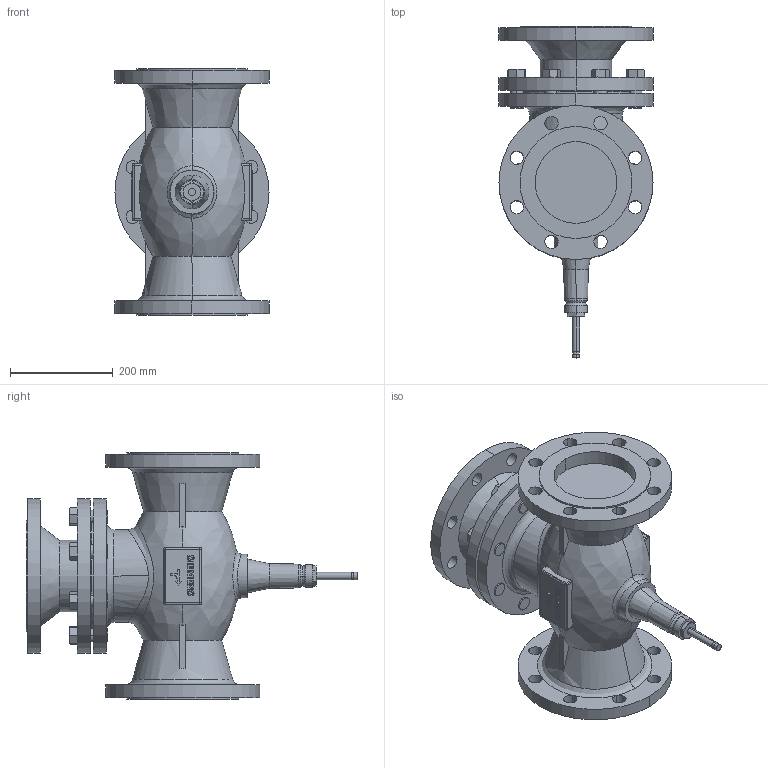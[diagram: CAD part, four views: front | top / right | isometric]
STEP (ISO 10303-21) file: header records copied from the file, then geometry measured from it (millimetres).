
FILE_DESCRIPTION((''),'2;1');
FILE_NAME('000328.dwg.stp','2006-10-23T13:46:03',(''),(''),'Mechanical Desktop 2006','Mechanical Desktop 2006',', , ');
FILE_SCHEMA(('AUTOMOTIVE_DESIGN { 1 2 10303 214 0 1 1 1 }'));
Length unit declared in the file: millimetre
Products named in the file (1): Product
Bounding box: 300 x 646.5 x 480 mm (x, y, z)
Volume: 21884312.1 mm3; surface area: 1387345 mm2
Topology: 44 solids, 44 shells, 750 faces, 1927 edges, 1265 vertices
Faces by surface type: cylinder 262, plane 237, bspline 227, cone 12, sphere 8, torus 4
Entity records: 26144 total; most frequent: CARTESIAN_POINT 8354, ORIENTED_EDGE 3838, DIRECTION 3512, EDGE_CURVE 1919, AXIS2_PLACEMENT_3D 1290, VERTEX_POINT 1265, VECTOR 932, LINE 932
